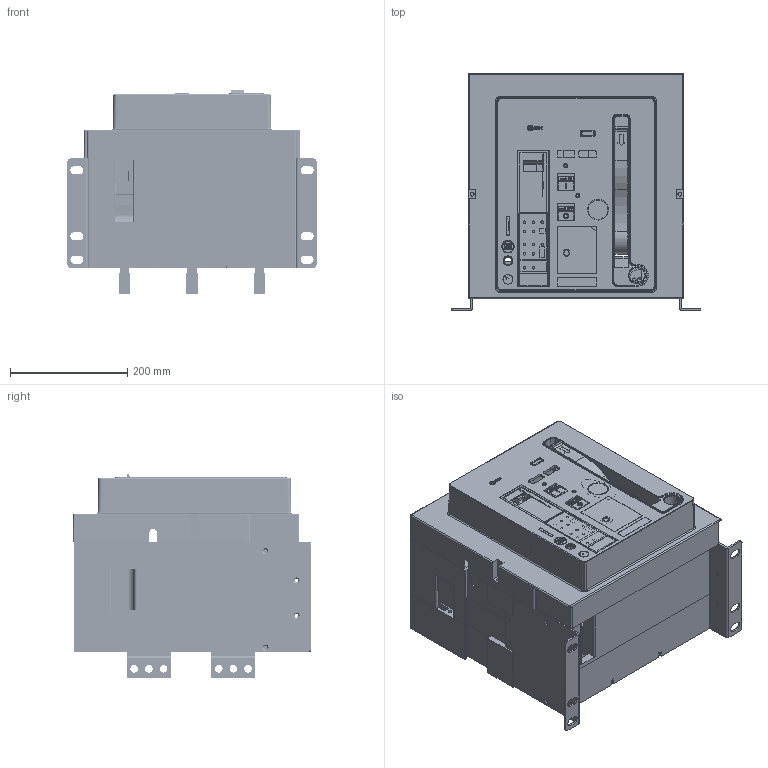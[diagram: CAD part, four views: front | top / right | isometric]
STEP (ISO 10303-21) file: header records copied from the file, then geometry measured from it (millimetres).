
FILE_DESCRIPTION((''),'2;1');
FILE_NAME('HG_08_B06_253V_FIX_ASM_ASM_ASM','2019-03-29T',('HHI'),(''),'PRO/ENGINEER BY PARAMETRIC TECHNOLOGY CORPORATION, 2012453','PRO/ENGINEER BY PARAMETRIC TECHNOLOGY CORPORATION, 2012453','');
FILE_SCHEMA(('CONFIG_CONTROL_DESIGN'));
Products named in the file (25): PRT0366; PRT0367; PRT0368; PRT0369; PRT0370; PRT0371; ASM0029_ASM_ASM; PRT0372; PRT0373; PRT0374; ASM0030_ASM_ASM; PRT0375; PRT0376; ASM0028_ASM_ASM; PRT0377; PRT0378; PRT0379; ASM0027_ASM_ASM; PRT0380; B06_253V_FIX_ASM_1_ASM_ASM; PRT0381; PRT0382; PRT0383; ASM0076_ASM; HG_08_B06_253V_FIX_ASM_ASM_ASM
Assembly tree (31 placements, depth 7):
  HG_08_B06_253V_FIX_ASM_ASM_ASM
    ASM0076_ASM
      B06_253V_FIX_ASM_1_ASM_ASM
        ASM0027_ASM_ASM
          PRT0366
          PRT0367
          ASM0028_ASM_ASM
            ASM0029_ASM_ASM
              PRT0368
              PRT0369
              PRT0370
              PRT0371
            ASM0030_ASM_ASM
              PRT0372
              PRT0373
              PRT0374
            PRT0375
            PRT0376
          PRT0377  x3
          PRT0378
          PRT0379
        PRT0380  x6
      PRT0381
      PRT0382
      PRT0383
Bounding box: 424.4 x 405.08 x 346.23 mm (x, y, z)
Volume: 7435670.4 mm3; surface area: 2723424.6 mm2
Topology: 25 solids, 31 shells, 6954 faces, 19445 edges, 12660 vertices
Faces by surface type: plane 4279, cylinder 2021, torus 248, extrusion 141, cone 108, sphere 96, bspline 61
Entity records: 221660 total; most frequent: CARTESIAN_POINT 45293, ORIENTED_EDGE 37486, DIRECTION 35800, EDGE_CURVE 18751, VECTOR 13560, LINE 13419, VERTEX_POINT 12260, AXIS2_PLACEMENT_3D 11120
